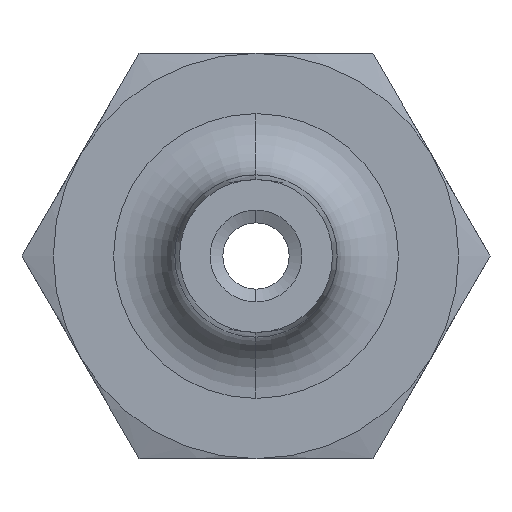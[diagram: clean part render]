
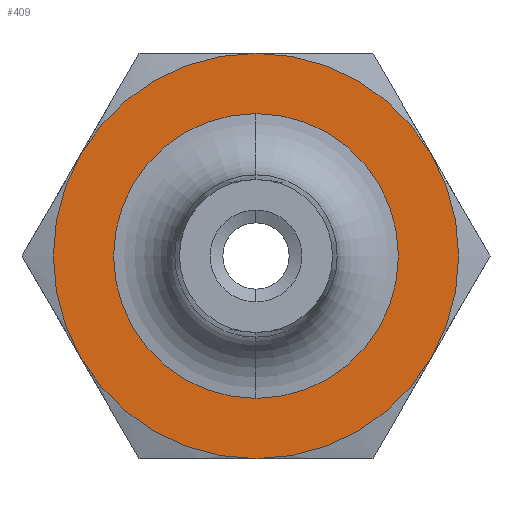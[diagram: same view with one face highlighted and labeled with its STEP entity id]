
A CAD part, left-side view. The second image highlights one B-rep face of the part: STEP entity #409.
In plain terms, the highlighted planar face has unit normal (-1, 0, 0).
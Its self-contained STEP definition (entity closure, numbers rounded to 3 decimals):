
#31 = EDGE_CURVE ( 'NONE', #32, #33, #503, .T. ) ;
#32 = VERTEX_POINT ( 'NONE', #497 ) ;
#33 = VERTEX_POINT ( 'NONE', #639 ) ;
#244 = VERTEX_POINT ( 'NONE', #1088 ) ;
#252 = VERTEX_POINT ( 'NONE', #1075 ) ;
#298 = VERTEX_POINT ( 'NONE', #1310 ) ;
#304 = ORIENTED_EDGE ( 'NONE', *, *, #305, .T. ) ;
#305 = EDGE_CURVE ( 'NONE', #33, #32, #1197, .T. ) ;
#306 = ORIENTED_EDGE ( 'NONE', *, *, #31, .T. ) ;
#307 = EDGE_LOOP ( 'NONE', ( #308, #310, #312, #314, #316, #412 ) ) ;
#308 = ORIENTED_EDGE ( 'NONE', *, *, #309, .F. ) ;
#309 = EDGE_CURVE ( 'NONE', #399, #252, #1192, .T. ) ;
#310 = ORIENTED_EDGE ( 'NONE', *, *, #311, .F. ) ;
#311 = EDGE_CURVE ( 'NONE', #459, #399, #1188, .T. ) ;
#312 = ORIENTED_EDGE ( 'NONE', *, *, #313, .F. ) ;
#313 = EDGE_CURVE ( 'NONE', #324, #459, #1183, .T. ) ;
#314 = ORIENTED_EDGE ( 'NONE', *, *, #315, .F. ) ;
#315 = EDGE_CURVE ( 'NONE', #298, #324, #1178, .T. ) ;
#316 = ORIENTED_EDGE ( 'NONE', *, *, #411, .T. ) ;
#324 = VERTEX_POINT ( 'NONE', #1275 ) ;
#399 = VERTEX_POINT ( 'NONE', #1391 ) ;
#409 = ADVANCED_FACE ( 'NONE', ( #1558, #1561 ), #1560, .F. ) ;
#410 = EDGE_LOOP ( 'NONE', ( #304, #306 ) ) ;
#411 = EDGE_CURVE ( 'NONE', #298, #244, #1548, .T. ) ;
#412 = ORIENTED_EDGE ( 'NONE', *, *, #413, .F. ) ;
#413 = EDGE_CURVE ( 'NONE', #252, #244, #1543, .T. ) ;
#459 = VERTEX_POINT ( 'NONE', #1469 ) ;
#493 = DIRECTION ( 'NONE',  ( 0., 0., -1. ) ) ;
#494 = DIRECTION ( 'NONE',  ( 1., 0., 0. ) ) ;
#495 = CARTESIAN_POINT ( 'NONE',  ( 0., 0., 0. ) ) ;
#496 = AXIS2_PLACEMENT_3D ( 'NONE', #495, #494, #493 ) ;
#497 = CARTESIAN_POINT ( 'NONE',  ( 0., 0., 2.79 ) ) ;
#503 = CIRCLE ( 'NONE', #496, 2.79 ) ;
#639 = CARTESIAN_POINT ( 'NONE',  ( 0., 0., -2.79 ) ) ;
#1075 = CARTESIAN_POINT ( 'NONE',  ( 0., 3.438, -1.985 ) ) ;
#1088 = CARTESIAN_POINT ( 'NONE',  ( 0., 3.438, 1.985 ) ) ;
#1174 = DIRECTION ( 'NONE',  ( 0., 0., -1. ) ) ;
#1175 = DIRECTION ( 'NONE',  ( 1., 0., 0. ) ) ;
#1176 = CARTESIAN_POINT ( 'NONE',  ( 0., 0., 0. ) ) ;
#1177 = AXIS2_PLACEMENT_3D ( 'NONE', #1176, #1175, #1174 ) ;
#1178 = CIRCLE ( 'NONE', #1177, 3.97 ) ;
#1179 = DIRECTION ( 'NONE',  ( 0., 0., -1. ) ) ;
#1180 = DIRECTION ( 'NONE',  ( 1., 0., 0. ) ) ;
#1181 = CARTESIAN_POINT ( 'NONE',  ( 0., 0., 0. ) ) ;
#1182 = AXIS2_PLACEMENT_3D ( 'NONE', #1181, #1180, #1179 ) ;
#1183 = CIRCLE ( 'NONE', #1182, 3.97 ) ;
#1184 = DIRECTION ( 'NONE',  ( 0., 0., -1. ) ) ;
#1185 = DIRECTION ( 'NONE',  ( 1., 0., 0. ) ) ;
#1186 = CARTESIAN_POINT ( 'NONE',  ( 0., 0., 0. ) ) ;
#1187 = AXIS2_PLACEMENT_3D ( 'NONE', #1186, #1185, #1184 ) ;
#1188 = CIRCLE ( 'NONE', #1187, 3.97 ) ;
#1189 = DIRECTION ( 'NONE',  ( 0., 0., -1. ) ) ;
#1190 = DIRECTION ( 'NONE',  ( 1., 0., 0. ) ) ;
#1191 = AXIS2_PLACEMENT_3D ( 'NONE', #1193, #1190, #1189 ) ;
#1192 = CIRCLE ( 'NONE', #1191, 3.97 ) ;
#1193 = CARTESIAN_POINT ( 'NONE',  ( 0., 0., 0. ) ) ;
#1194 = DIRECTION ( 'NONE',  ( 0., 0., -1. ) ) ;
#1195 = DIRECTION ( 'NONE',  ( 1., 0., 0. ) ) ;
#1196 = AXIS2_PLACEMENT_3D ( 'NONE', #1202, #1195, #1194 ) ;
#1197 = CIRCLE ( 'NONE', #1196, 2.79 ) ;
#1202 = CARTESIAN_POINT ( 'NONE',  ( 0., 0., 0. ) ) ;
#1275 = CARTESIAN_POINT ( 'NONE',  ( 0., -3.438, 1.985 ) ) ;
#1310 = CARTESIAN_POINT ( 'NONE',  ( 0., 0., 3.97 ) ) ;
#1391 = CARTESIAN_POINT ( 'NONE',  ( 0., 0., -3.97 ) ) ;
#1469 = CARTESIAN_POINT ( 'NONE',  ( 0., -3.438, -1.985 ) ) ;
#1540 = DIRECTION ( 'NONE',  ( 0., 0., -1. ) ) ;
#1541 = DIRECTION ( 'NONE',  ( 1., 0., 0. ) ) ;
#1542 = AXIS2_PLACEMENT_3D ( 'NONE', #1549, #1541, #1540 ) ;
#1543 = CIRCLE ( 'NONE', #1542, 3.97 ) ;
#1544 = DIRECTION ( 'NONE',  ( 0., 0., 1. ) ) ;
#1545 = DIRECTION ( 'NONE',  ( -1., 0., 0. ) ) ;
#1546 = CARTESIAN_POINT ( 'NONE',  ( 0., 0., 0. ) ) ;
#1547 = AXIS2_PLACEMENT_3D ( 'NONE', #1546, #1545, #1544 ) ;
#1548 = CIRCLE ( 'NONE', #1547, 3.97 ) ;
#1549 = CARTESIAN_POINT ( 'NONE',  ( 0., 0., 0. ) ) ;
#1550 = DIRECTION ( 'NONE',  ( 0., 0., -1. ) ) ;
#1551 = DIRECTION ( 'NONE',  ( 1., 0., 0. ) ) ;
#1552 = CARTESIAN_POINT ( 'NONE',  ( 0., 4.584, 0. ) ) ;
#1553 = AXIS2_PLACEMENT_3D ( 'NONE', #1552, #1551, #1550 ) ;
#1558 = FACE_BOUND ( 'NONE', #410, .T. ) ;
#1560 = PLANE ( 'NONE',  #1553 ) ;
#1561 = FACE_OUTER_BOUND ( 'NONE', #307, .T. ) ;
